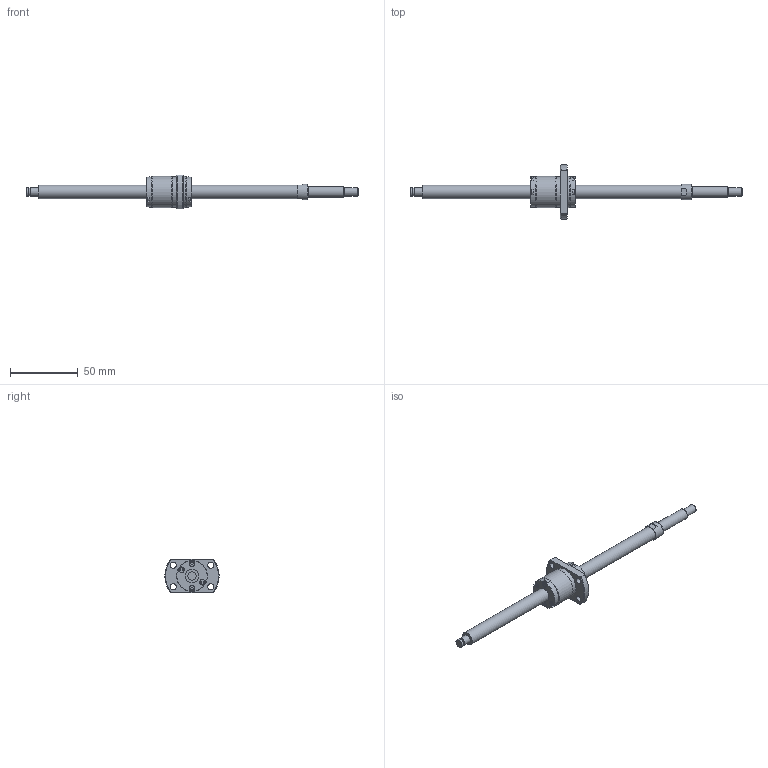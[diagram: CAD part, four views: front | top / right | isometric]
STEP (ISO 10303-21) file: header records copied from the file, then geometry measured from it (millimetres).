
FILE_DESCRIPTION(/* description */ ('STEP AP214'),/* implementation_level */ '2;1');
FILE_NAME(/* name */ 'SRT1015-187R245C7B0X(80Processing)',/* time_stamp */ '2026-08-06T15:22:47+02:00',/* author */ ('License CC BY-ND 4.0'),/* organization */ ('CADENAS'),/* preprocessor_version */ 'ST-DEVELOPER v20',/* originating_system */ 'PARTsolutions',/* authorisation */ ' ');
FILE_SCHEMA (('AUTOMOTIVE_DESIGN {1 0 10303 214 3 1 1}'));
Length unit declared in the file: millimetre
Products named in the file (3): SRT1015-187R245C7B0X(80Processing); SRT1015-187R270BCt7Processing69Shaft; SRT1015Nut
Assembly tree (2 placements, depth 2):
  SRT1015-187R245C7B0X(80Processing)
    SRT1015-187R270BCt7Processing69Shaft
    SRT1015Nut
Bounding box: 245 x 40 x 25 mm (x, y, z)
Volume: 30709 mm3; surface area: 13262 mm2
Topology: 2 solids, 2 shells, 155 faces, 367 edges, 241 vertices
Faces by surface type: plane 109, cylinder 35, cone 10, torus 1
Full cylindrical faces by diameter (mm): 3.8 x8, 4.5 x4, 5.7 x1, 6 x3, 8 x1, 10 x2, 11.5 x1, 22.45 x1, 22.5 x2, 23 x2
Entity records: 4367 total; most frequent: CARTESIAN_POINT 752, DIRECTION 738, ORIENTED_EDGE 664, EDGE_CURVE 332, AXIS2_PLACEMENT_3D 256, VERTEX_POINT 238, LINE 226, VECTOR 226
